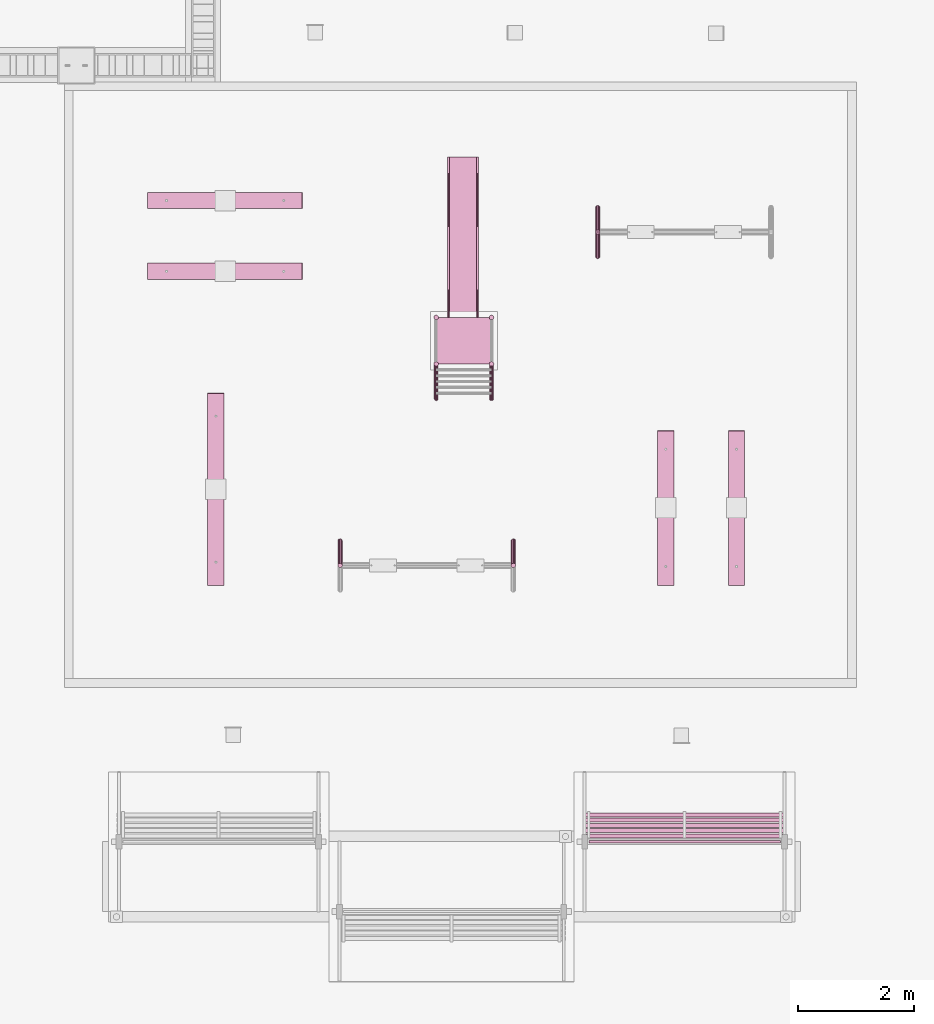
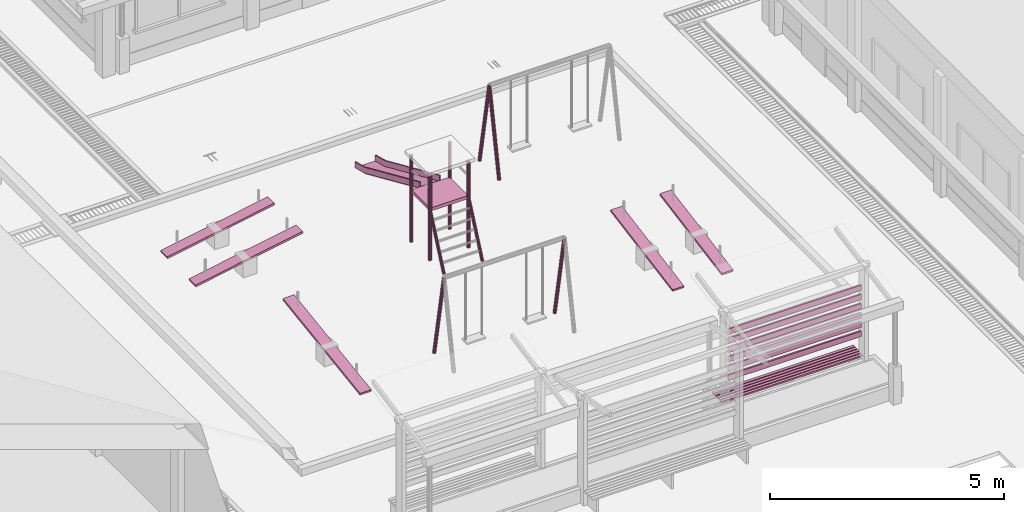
# One storey, part 138 of 151: 30 furnishings.
"""IFC2X3 building model written with IfcOpenShell, lengths in metres."""

from ifc_helpers import new_model, si_unit, origin, origin_with_axes, place, context, subcontext, project, spatial, faceted_brep, element, save


model = new_model("IFC2X3")

# Units and contexts
model_context = context("Model", 3, precision=1e-05, world=origin_with_axes())
body_context = subcontext(model_context, "Body", "Model", "MODEL_VIEW")
ifc_project = project(units=[si_unit("LENGTHUNIT", "METRE"), si_unit("AREAUNIT", "SQUARE_METRE"), si_unit("VOLUMEUNIT", "CUBIC_METRE"), si_unit("PLANEANGLEUNIT", "RADIAN")], contexts=[model_context])

# Site, building, storey
site_placement = place(None, origin_with_axes())
site = spatial("IfcSite", under=ifc_project, at=site_placement, Name="Predio Los Mangos - Morales, San Martín", CompositionType="ELEMENT")
building_placement = place(site_placement, origin())
building = spatial("IfcBuilding", under=site, at=building_placement, Name="Hogar de Refugio Temporal", CompositionType="ELEMENT")
storey_placement = place(building_placement, origin())
storey = spatial("IfcBuildingStorey", under=building, at=storey_placement, Name="NIVEL 1 (NPT +0.00)", CompositionType="ELEMENT", Elevation=0.0)

# Furnishings
furnishing_1_placement = place(storey_placement, origin())
element("IfcFurnishingElement", 1, at=furnishing_1_placement, inside=storey, Name="balancin_tabla", ObjectType="Mobiliario exterior / juegos", context=body_context, shape_type="Brep", body=[
    faceted_brep([(38.6172, 79.4125, 0.2754), (38.3372, 79.4125, 0.2754), (38.3372, 82.0625, 0.7554), (38.6172, 82.0625, 0.7554), (38.6172, 79.4035, 0.3246), (38.6172, 82.0535, 0.8046), (38.3372, 82.0535, 0.8046), (38.3372, 79.4035, 0.3246)], [[[0, 1, 2, 3]], [[4, 5, 6, 7]], [[0, 3, 5, 4]], [[3, 2, 6, 5]], [[2, 1, 7, 6]], [[1, 0, 4, 7]]]),
])
furnishing_2_placement = place(storey_placement, origin())
element("IfcFurnishingElement", 2, at=furnishing_2_placement, inside=storey, Name="balancin_tabla", ObjectType="Mobiliario exterior / juegos", context=body_context, shape_type="Brep", body=[
    faceted_brep([(39.8317, 79.4125, 0.2754), (39.5518, 79.4125, 0.2754), (39.5518, 82.0625, 0.7554), (39.8317, 82.0625, 0.7554), (39.8317, 79.4035, 0.3246), (39.8317, 82.0535, 0.8046), (39.5518, 82.0535, 0.8046), (39.5518, 79.4035, 0.3246)], [[[0, 1, 2, 3]], [[4, 5, 6, 7]], [[0, 3, 5, 4]], [[3, 2, 6, 5]], [[2, 1, 7, 6]], [[1, 0, 4, 7]]]),
])
furnishing_3_placement = place(storey_placement, origin())
element("IfcFurnishingElement", 3, at=furnishing_3_placement, inside=storey, Name="tobogan_escalera", ObjectType="Mobiliario exterior / juegos", context=body_context, shape_type="Brep", body=[
    faceted_brep([(34.535, 82.5721, 0.1445), (34.535, 83.1721, 1.4645), (34.5175, 83.1764, 1.4625), (34.5175, 82.5764, 0.1425), (34.5047, 83.1881, 1.4572), (34.5047, 82.5881, 0.1372), (34.5, 83.204, 1.45), (34.5, 82.604, 0.13), (34.5047, 83.2199, 1.4428), (34.5047, 82.6199, 0.1228), (34.5175, 83.2316, 1.4375), (34.5175, 82.6316, 0.1175), (34.535, 83.2359, 1.4355), (34.535, 82.6359, 0.1155), (34.5525, 83.2316, 1.4375), (34.5525, 82.6316, 0.1175), (34.5653, 83.2199, 1.4428), (34.5653, 82.6199, 0.1228), (34.57, 83.204, 1.45), (34.57, 82.604, 0.13), (34.5653, 83.1881, 1.4572), (34.5653, 82.5881, 0.1372), (34.5525, 83.1764, 1.4625), (34.5525, 82.5764, 0.1425)], [[[0, 1, 2, 3]], [[3, 2, 4, 5]], [[5, 4, 6, 7]], [[7, 6, 8, 9]], [[9, 8, 10, 11]], [[11, 10, 12, 13]], [[13, 12, 14, 15]], [[15, 14, 16, 17]], [[17, 16, 18, 19]], [[19, 18, 20, 21]], [[2, 1, 22, 20, 18, 16, 14, 12, 10, 8, 6, 4]], [[21, 20, 22, 23]], [[23, 22, 1, 0]], [[0, 3, 5, 7, 9, 11, 13, 15, 17, 19, 21, 23]]]),
])
furnishing_4_placement = place(storey_placement, origin())
element("IfcFurnishingElement", 4, at=furnishing_4_placement, inside=storey, Name="tobogan_poste", ObjectType="Mobiliario exterior / juegos", context=body_context, shape_type="Brep", body=[
    faceted_brep([(34.535, 83.164, 0.13), (34.535, 83.164, 2.4), (34.515, 83.1694, 2.4), (34.515, 83.1694, 0.13), (34.5004, 83.184, 2.4), (34.5004, 83.184, 0.13), (34.495, 83.204, 2.4), (34.495, 83.204, 0.13), (34.5004, 83.224, 2.4), (34.5004, 83.224, 0.13), (34.515, 83.2386, 2.4), (34.515, 83.2386, 0.13), (34.535, 83.244, 2.4), (34.535, 83.244, 0.13), (34.555, 83.2386, 2.4), (34.555, 83.2386, 0.13), (34.5696, 83.224, 2.4), (34.5696, 83.224, 0.13), (34.575, 83.204, 2.4), (34.575, 83.204, 0.13), (34.5696, 83.184, 2.4), (34.5696, 83.184, 0.13), (34.555, 83.1694, 2.4), (34.555, 83.1694, 0.13)], [[[0, 1, 2, 3]], [[3, 2, 4, 5]], [[5, 4, 6, 7]], [[7, 6, 8, 9]], [[9, 8, 10, 11]], [[11, 10, 12, 13]], [[13, 12, 14, 15]], [[15, 14, 16, 17]], [[17, 16, 18, 19]], [[19, 18, 20, 21]], [[2, 1, 22, 20, 18, 16, 14, 12, 10, 8, 6, 4]], [[21, 20, 22, 23]], [[23, 22, 1, 0]], [[0, 3, 5, 7, 9, 11, 13, 15, 17, 19, 21, 23]]]),
])
furnishing_5_placement = place(storey_placement, origin())
element("IfcFurnishingElement", 5, at=furnishing_5_placement, inside=storey, Name="tobogan_poste", ObjectType="Mobiliario exterior / juegos", context=body_context, shape_type="Brep", body=[
    faceted_brep([(34.535, 83.964, 0.13), (34.535, 83.964, 2.4), (34.515, 83.9694, 2.4), (34.515, 83.9694, 0.13), (34.5004, 83.984, 2.4), (34.5004, 83.984, 0.13), (34.495, 84.004, 2.4), (34.495, 84.004, 0.13), (34.5004, 84.024, 2.4), (34.5004, 84.024, 0.13), (34.515, 84.0386, 2.4), (34.515, 84.0386, 0.13), (34.535, 84.044, 2.4), (34.535, 84.044, 0.13), (34.555, 84.0386, 2.4), (34.555, 84.0386, 0.13), (34.5696, 84.024, 2.4), (34.5696, 84.024, 0.13), (34.575, 84.004, 2.4), (34.575, 84.004, 0.13), (34.5696, 83.984, 2.4), (34.5696, 83.984, 0.13), (34.555, 83.9694, 2.4), (34.555, 83.9694, 0.13)], [[[0, 1, 2, 3]], [[3, 2, 4, 5]], [[5, 4, 6, 7]], [[7, 6, 8, 9]], [[9, 8, 10, 11]], [[11, 10, 12, 13]], [[13, 12, 14, 15]], [[15, 14, 16, 17]], [[17, 16, 18, 19]], [[19, 18, 20, 21]], [[2, 1, 22, 20, 18, 16, 14, 12, 10, 8, 6, 4]], [[21, 20, 22, 23]], [[23, 22, 1, 0]], [[0, 3, 5, 7, 9, 11, 13, 15, 17, 19, 21, 23]]]),
])
furnishing_6_placement = place(storey_placement, origin())
element("IfcFurnishingElement", 6, at=furnishing_6_placement, inside=storey, Name="tobogan_escalera", ObjectType="Mobiliario exterior / juegos", context=body_context, shape_type="Brep", body=[
    faceted_brep([(35.485, 82.5721, 0.1445), (35.485, 83.1721, 1.4645), (35.4675, 83.1764, 1.4625), (35.4675, 82.5764, 0.1425), (35.4547, 83.1881, 1.4572), (35.4547, 82.5881, 0.1372), (35.45, 83.204, 1.45), (35.45, 82.604, 0.13), (35.4547, 83.2199, 1.4428), (35.4547, 82.6199, 0.1228), (35.4675, 83.2316, 1.4375), (35.4675, 82.6316, 0.1175), (35.485, 83.2359, 1.4355), (35.485, 82.6359, 0.1155), (35.5025, 83.2316, 1.4375), (35.5025, 82.6316, 0.1175), (35.5153, 83.2199, 1.4428), (35.5153, 82.6199, 0.1228), (35.52, 83.204, 1.45), (35.52, 82.604, 0.13), (35.5153, 83.1881, 1.4572), (35.5153, 82.5881, 0.1372), (35.5025, 83.1764, 1.4625), (35.5025, 82.5764, 0.1425)], [[[0, 1, 2, 3]], [[3, 2, 4, 5]], [[5, 4, 6, 7]], [[7, 6, 8, 9]], [[9, 8, 10, 11]], [[11, 10, 12, 13]], [[13, 12, 14, 15]], [[15, 14, 16, 17]], [[17, 16, 18, 19]], [[19, 18, 20, 21]], [[2, 1, 22, 20, 18, 16, 14, 12, 10, 8, 6, 4]], [[21, 20, 22, 23]], [[23, 22, 1, 0]], [[0, 3, 5, 7, 9, 11, 13, 15, 17, 19, 21, 23]]]),
])
furnishing_7_placement = place(storey_placement, origin())
element("IfcFurnishingElement", 7, at=furnishing_7_placement, inside=storey, Name="tobogan_poste", ObjectType="Mobiliario exterior / juegos", context=body_context, shape_type="Brep", body=[
    faceted_brep([(35.485, 83.164, 0.13), (35.485, 83.164, 2.4), (35.465, 83.1694, 2.4), (35.465, 83.1694, 0.13), (35.4504, 83.184, 2.4), (35.4504, 83.184, 0.13), (35.445, 83.204, 2.4), (35.445, 83.204, 0.13), (35.4504, 83.224, 2.4), (35.4504, 83.224, 0.13), (35.465, 83.2386, 2.4), (35.465, 83.2386, 0.13), (35.485, 83.244, 2.4), (35.485, 83.244, 0.13), (35.505, 83.2386, 2.4), (35.505, 83.2386, 0.13), (35.5196, 83.224, 2.4), (35.5196, 83.224, 0.13), (35.525, 83.204, 2.4), (35.525, 83.204, 0.13), (35.5196, 83.184, 2.4), (35.5196, 83.184, 0.13), (35.505, 83.1694, 2.4), (35.505, 83.1694, 0.13)], [[[0, 1, 2, 3]], [[3, 2, 4, 5]], [[5, 4, 6, 7]], [[7, 6, 8, 9]], [[9, 8, 10, 11]], [[11, 10, 12, 13]], [[13, 12, 14, 15]], [[15, 14, 16, 17]], [[17, 16, 18, 19]], [[19, 18, 20, 21]], [[2, 1, 22, 20, 18, 16, 14, 12, 10, 8, 6, 4]], [[21, 20, 22, 23]], [[23, 22, 1, 0]], [[0, 3, 5, 7, 9, 11, 13, 15, 17, 19, 21, 23]]]),
])
furnishing_8_placement = place(storey_placement, origin())
element("IfcFurnishingElement", 8, at=furnishing_8_placement, inside=storey, Name="tobogan_poste", ObjectType="Mobiliario exterior / juegos", context=body_context, shape_type="Brep", body=[
    faceted_brep([(35.485, 83.964, 0.13), (35.485, 83.964, 2.4), (35.465, 83.9694, 2.4), (35.465, 83.9694, 0.13), (35.4504, 83.984, 2.4), (35.4504, 83.984, 0.13), (35.445, 84.004, 2.4), (35.445, 84.004, 0.13), (35.4504, 84.024, 2.4), (35.4504, 84.024, 0.13), (35.465, 84.0386, 2.4), (35.465, 84.0386, 0.13), (35.485, 84.044, 2.4), (35.485, 84.044, 0.13), (35.505, 84.0386, 2.4), (35.505, 84.0386, 0.13), (35.5196, 84.024, 2.4), (35.5196, 84.024, 0.13), (35.525, 84.004, 2.4), (35.525, 84.004, 0.13), (35.5196, 83.984, 2.4), (35.5196, 83.984, 0.13), (35.505, 83.9694, 2.4), (35.505, 83.9694, 0.13)], [[[0, 1, 2, 3]], [[3, 2, 4, 5]], [[5, 4, 6, 7]], [[7, 6, 8, 9]], [[9, 8, 10, 11]], [[11, 10, 12, 13]], [[13, 12, 14, 15]], [[15, 14, 16, 17]], [[17, 16, 18, 19]], [[19, 18, 20, 21]], [[2, 1, 22, 20, 18, 16, 14, 12, 10, 8, 6, 4]], [[21, 20, 22, 23]], [[23, 22, 1, 0]], [[0, 3, 5, 7, 9, 11, 13, 15, 17, 19, 21, 23]]]),
])
furnishing_9_placement = place(storey_placement, origin())
element("IfcFurnishingElement", 9, at=furnishing_9_placement, inside=storey, Name="tobogan_plataforma", ObjectType="Mobiliario exterior / juegos", context=body_context, shape_type="Brep", body=[
    faceted_brep([(34.535, 83.204, 1.4), (34.535, 84.004, 1.4), (35.485, 84.004, 1.4), (35.485, 83.204, 1.4), (34.535, 83.204, 1.48), (35.485, 83.204, 1.48), (35.485, 84.004, 1.48), (34.535, 84.004, 1.48)], [[[0, 1, 2, 3]], [[4, 5, 6, 7]], [[0, 3, 5, 4]], [[3, 2, 6, 5]], [[2, 1, 7, 6]], [[1, 0, 4, 7]]]),
])
furnishing_10_placement = place(storey_placement, origin())
element("IfcFurnishingElement", 10, at=furnishing_10_placement, inside=storey, Name="resbaladera", ObjectType="Mobiliario exterior / juegos", context=body_context, shape_type="Brep", body=[
    faceted_brep([(34.76, 84.004, 1.46), (35.26, 84.004, 1.46), (35.26, 86.356, 0.42), (34.76, 86.356, 0.42), (35.26, 86.756, 0.32), (34.76, 86.756, 0.32), (34.76, 83.9919, 1.4326), (34.76, 86.3463, 0.3916), (35.26, 86.3463, 0.3916), (35.26, 83.9919, 1.4326), (34.76, 86.7487, 0.2909), (35.26, 86.7487, 0.2909)], [[[0, 1, 2, 3]], [[3, 2, 4, 5]], [[6, 7, 8, 9]], [[7, 10, 11, 8]], [[0, 3, 7, 6]], [[1, 0, 6, 9]], [[2, 1, 9, 8]], [[3, 5, 10, 7]], [[4, 2, 8, 11]], [[5, 4, 11, 10]]]),
])
furnishing_11_placement = place(storey_placement, origin())
element("IfcFurnishingElement", 11, at=furnishing_11_placement, inside=storey, Name="resbaladera_borde", ObjectType="Mobiliario exterior / juegos", context=body_context, shape_type="Brep", body=[
    faceted_brep([(34.76, 84.004, 1.46), (34.76, 86.356, 0.42), (34.76, 86.356, 0.57), (34.76, 84.004, 1.61), (34.76, 86.756, 0.32), (34.76, 86.756, 0.47), (34.73, 84.004, 1.46), (34.73, 84.004, 1.61), (34.73, 86.356, 0.57), (34.73, 86.356, 0.42), (34.73, 86.756, 0.47), (34.73, 86.756, 0.32)], [[[0, 1, 2, 3]], [[1, 4, 5, 2]], [[6, 7, 8, 9]], [[9, 8, 10, 11]], [[0, 3, 7, 6]], [[1, 0, 6, 9]], [[3, 2, 8, 7]], [[4, 1, 9, 11]], [[5, 4, 11, 10]], [[2, 5, 10, 8]]]),
])
furnishing_12_placement = place(storey_placement, origin())
element("IfcFurnishingElement", 12, at=furnishing_12_placement, inside=storey, Name="resbaladera_borde", ObjectType="Mobiliario exterior / juegos", context=body_context, shape_type="Brep", body=[
    faceted_brep([(35.26, 84.004, 1.46), (35.26, 86.356, 0.42), (35.26, 86.356, 0.57), (35.26, 84.004, 1.61), (35.26, 86.756, 0.32), (35.26, 86.756, 0.47), (35.23, 84.004, 1.46), (35.23, 84.004, 1.61), (35.23, 86.356, 0.57), (35.23, 86.356, 0.42), (35.23, 86.756, 0.47), (35.23, 86.756, 0.32)], [[[0, 1, 2, 3]], [[1, 4, 5, 2]], [[6, 7, 8, 9]], [[9, 8, 10, 11]], [[0, 3, 7, 6]], [[1, 0, 6, 9]], [[3, 2, 8, 7]], [[4, 1, 9, 11]], [[5, 4, 11, 10]], [[2, 5, 10, 8]]]),
])
furnishing_13_placement = place(storey_placement, origin())
element("IfcFurnishingElement", 13, at=furnishing_13_placement, inside=storey, Name="balancin_tabla", ObjectType="Mobiliario exterior / juegos", context=body_context, shape_type="Brep", body=[
    faceted_brep([(30.891, 79.4076, 0.2753), (30.611, 79.4076, 0.2753), (30.611, 82.7066, 0.7553), (30.891, 82.7066, 0.7553), (30.891, 79.4004, 0.3247), (30.891, 82.6994, 0.8047), (30.611, 82.6994, 0.8047), (30.611, 79.4004, 0.3247)], [[[0, 1, 2, 3]], [[4, 5, 6, 7]], [[0, 3, 5, 4]], [[3, 2, 6, 5]], [[2, 1, 7, 6]], [[1, 0, 4, 7]]]),
])
furnishing_14_placement = place(storey_placement, origin())
element("IfcFurnishingElement", 14, at=furnishing_14_placement, inside=storey, Name="columpio_pata", ObjectType="Mobiliario exterior / juegos", context=body_context, shape_type="Brep", body=[
    faceted_brep([(32.885, 80.2033, 0.1374), (32.885, 79.7833, 2.3574), (32.905, 79.778, 2.3564), (32.905, 80.198, 0.1364), (32.9196, 79.7637, 2.3537), (32.9196, 80.1837, 0.1337), (32.925, 79.744, 2.35), (32.925, 80.164, 0.13), (32.9196, 79.7243, 2.3463), (32.9196, 80.1443, 0.1263), (32.905, 79.71, 2.3436), (32.905, 80.13, 0.1236), (32.885, 79.7047, 2.3426), (32.885, 80.1247, 0.1226), (32.865, 79.71, 2.3436), (32.865, 80.13, 0.1236), (32.8504, 79.7243, 2.3463), (32.8504, 80.1443, 0.1263), (32.845, 79.744, 2.35), (32.845, 80.164, 0.13), (32.8504, 79.7637, 2.3537), (32.8504, 80.1837, 0.1337), (32.865, 79.778, 2.3564), (32.865, 80.198, 0.1364)], [[[0, 1, 2, 3]], [[3, 2, 4, 5]], [[5, 4, 6, 7]], [[7, 6, 8, 9]], [[9, 8, 10, 11]], [[11, 10, 12, 13]], [[13, 12, 14, 15]], [[15, 14, 16, 17]], [[17, 16, 18, 19]], [[19, 18, 20, 21]], [[2, 1, 22, 20, 18, 16, 14, 12, 10, 8, 6, 4]], [[21, 20, 22, 23]], [[23, 22, 1, 0]], [[0, 3, 5, 7, 9, 11, 13, 15, 17, 19, 21, 23]]]),
])
furnishing_15_placement = place(storey_placement, origin())
element("IfcFurnishingElement", 15, at=furnishing_15_placement, inside=storey, Name="columpio_pata", ObjectType="Mobiliario exterior / juegos", context=body_context, shape_type="Brep", body=[
    faceted_brep([(35.86, 80.2033, 0.1374), (35.86, 79.7833, 2.3574), (35.88, 79.778, 2.3564), (35.88, 80.198, 0.1364), (35.8946, 79.7637, 2.3537), (35.8946, 80.1837, 0.1337), (35.9, 79.744, 2.35), (35.9, 80.164, 0.13), (35.8946, 79.7243, 2.3463), (35.8946, 80.1443, 0.1263), (35.88, 79.71, 2.3436), (35.88, 80.13, 0.1236), (35.86, 79.7047, 2.3426), (35.86, 80.1247, 0.1226), (35.84, 79.71, 2.3436), (35.84, 80.13, 0.1236), (35.8254, 79.7243, 2.3463), (35.8254, 80.1443, 0.1263), (35.82, 79.744, 2.35), (35.82, 80.164, 0.13), (35.8254, 79.7637, 2.3537), (35.8254, 80.1837, 0.1337), (35.84, 79.778, 2.3564), (35.84, 80.198, 0.1364)], [[[0, 1, 2, 3]], [[3, 2, 4, 5]], [[5, 4, 6, 7]], [[7, 6, 8, 9]], [[9, 8, 10, 11]], [[11, 10, 12, 13]], [[13, 12, 14, 15]], [[15, 14, 16, 17]], [[17, 16, 18, 19]], [[19, 18, 20, 21]], [[2, 1, 22, 20, 18, 16, 14, 12, 10, 8, 6, 4]], [[21, 20, 22, 23]], [[23, 22, 1, 0]], [[0, 3, 5, 7, 9, 11, 13, 15, 17, 19, 21, 23]]]),
])
furnishing_16_placement = place(storey_placement, origin())
element("IfcFurnishingElement", 16, at=furnishing_16_placement, inside=storey, Name="columpio_pata", ObjectType="Mobiliario exterior / juegos", context=body_context, shape_type="Brep", body=[
    faceted_brep([(37.31, 85.0097, 0.1374), (37.31, 85.4297, 2.3574), (37.29, 85.435, 2.3564), (37.29, 85.015, 0.1364), (37.2754, 85.4493, 2.3537), (37.2754, 85.0294, 0.1337), (37.27, 85.469, 2.35), (37.27, 85.049, 0.13), (37.2754, 85.4887, 2.3463), (37.2754, 85.0687, 0.1263), (37.29, 85.503, 2.3436), (37.29, 85.083, 0.1236), (37.31, 85.5083, 2.3426), (37.31, 85.0883, 0.1226), (37.33, 85.503, 2.3436), (37.33, 85.083, 0.1236), (37.3446, 85.4887, 2.3463), (37.3446, 85.0687, 0.1263), (37.35, 85.469, 2.35), (37.35, 85.049, 0.13), (37.3446, 85.4493, 2.3537), (37.3446, 85.0294, 0.1337), (37.33, 85.435, 2.3564), (37.33, 85.015, 0.1364)], [[[0, 1, 2, 3]], [[3, 2, 4, 5]], [[5, 4, 6, 7]], [[7, 6, 8, 9]], [[9, 8, 10, 11]], [[11, 10, 12, 13]], [[13, 12, 14, 15]], [[15, 14, 16, 17]], [[17, 16, 18, 19]], [[19, 18, 20, 21]], [[2, 1, 22, 20, 18, 16, 14, 12, 10, 8, 6, 4]], [[21, 20, 22, 23]], [[23, 22, 1, 0]], [[0, 3, 5, 7, 9, 11, 13, 15, 17, 19, 21, 23]]]),
])
furnishing_17_placement = place(storey_placement, origin())
element("IfcFurnishingElement", 17, at=furnishing_17_placement, inside=storey, Name="columpio_pata", ObjectType="Mobiliario exterior / juegos", context=body_context, shape_type="Brep", body=[
    faceted_brep([(37.31, 85.9283, 0.1374), (37.31, 85.5083, 2.3574), (37.33, 85.503, 2.3564), (37.33, 85.923, 0.1364), (37.3446, 85.4887, 2.3537), (37.3446, 85.9087, 0.1337), (37.35, 85.469, 2.35), (37.35, 85.889, 0.13), (37.3446, 85.4493, 2.3463), (37.3446, 85.8693, 0.1263), (37.33, 85.435, 2.3436), (37.33, 85.855, 0.1236), (37.31, 85.4297, 2.3426), (37.31, 85.8497, 0.1226), (37.29, 85.435, 2.3436), (37.29, 85.855, 0.1236), (37.2754, 85.4493, 2.3463), (37.2754, 85.8693, 0.1263), (37.27, 85.469, 2.35), (37.27, 85.889, 0.13), (37.2754, 85.4887, 2.3537), (37.2754, 85.9087, 0.1337), (37.29, 85.503, 2.3564), (37.29, 85.923, 0.1364)], [[[0, 1, 2, 3]], [[3, 2, 4, 5]], [[5, 4, 6, 7]], [[7, 6, 8, 9]], [[9, 8, 10, 11]], [[11, 10, 12, 13]], [[13, 12, 14, 15]], [[15, 14, 16, 17]], [[17, 16, 18, 19]], [[19, 18, 20, 21]], [[2, 1, 22, 20, 18, 16, 14, 12, 10, 8, 6, 4]], [[21, 20, 22, 23]], [[23, 22, 1, 0]], [[0, 3, 5, 7, 9, 11, 13, 15, 17, 19, 21, 23]]]),
])
furnishing_18_placement = place(storey_placement, origin())
element("IfcFurnishingElement", 18, at=furnishing_18_placement, inside=storey, Name="balancin_tabla", ObjectType="Mobiliario exterior / juegos", context=body_context, shape_type="Brep", body=[
    faceted_brep([(29.5895, 84.6553, 0.2754), (29.5895, 84.9352, 0.2754), (32.2395, 84.9352, 0.7554), (32.2395, 84.6553, 0.7554), (29.5805, 84.6553, 0.3246), (32.2305, 84.6553, 0.8046), (32.2305, 84.9352, 0.8046), (29.5805, 84.9352, 0.3246)], [[[0, 1, 2, 3]], [[4, 5, 6, 7]], [[0, 3, 5, 4]], [[3, 2, 6, 5]], [[2, 1, 7, 6]], [[1, 0, 4, 7]]]),
])
furnishing_19_placement = place(storey_placement, origin())
element("IfcFurnishingElement", 19, at=furnishing_19_placement, inside=storey, Name="balancin_tabla", ObjectType="Mobiliario exterior / juegos", context=body_context, shape_type="Brep", body=[
    faceted_brep([(29.5895, 85.8698, 0.2754), (29.5895, 86.1497, 0.2754), (32.2395, 86.1497, 0.7554), (32.2395, 85.8698, 0.7554), (29.5805, 85.8698, 0.3246), (32.2305, 85.8698, 0.8046), (32.2305, 86.1497, 0.8046), (29.5805, 86.1497, 0.3246)], [[[0, 1, 2, 3]], [[4, 5, 6, 7]], [[0, 3, 5, 4]], [[3, 2, 6, 5]], [[2, 1, 7, 6]], [[1, 0, 4, 7]]]),
])
furnishing_20_placement = place(storey_placement, origin())
element("IfcFurnishingElement", 20, at=furnishing_20_placement, inside=storey, Name="oc01_celosia", ObjectType="Mobiliario exterior / juegos", context=body_context, shape_type="Brep", body=[
    faceted_brep([(40.445, 75.02, 1.05), (40.445, 74.98, 1.05), (37.155, 74.98, 1.05), (37.155, 75.02, 1.05), (40.445, 75.02, 1.19), (37.155, 75.02, 1.19), (37.155, 74.98, 1.19), (40.445, 74.98, 1.19)], [[[0, 1, 2, 3]], [[4, 5, 6, 7]], [[0, 3, 5, 4]], [[3, 2, 6, 5]], [[2, 1, 7, 6]], [[1, 0, 4, 7]]]),
])
furnishing_21_placement = place(storey_placement, origin())
element("IfcFurnishingElement", 21, at=furnishing_21_placement, inside=storey, Name="oc01_celosia", ObjectType="Mobiliario exterior / juegos", context=body_context, shape_type="Brep", body=[
    faceted_brep([(40.445, 75.02, 1.29), (40.445, 74.98, 1.29), (37.155, 74.98, 1.29), (37.155, 75.02, 1.29), (40.445, 75.02, 1.43), (37.155, 75.02, 1.43), (37.155, 74.98, 1.43), (40.445, 74.98, 1.43)], [[[0, 1, 2, 3]], [[4, 5, 6, 7]], [[0, 3, 5, 4]], [[3, 2, 6, 5]], [[2, 1, 7, 6]], [[1, 0, 4, 7]]]),
])
furnishing_22_placement = place(storey_placement, origin())
element("IfcFurnishingElement", 22, at=furnishing_22_placement, inside=storey, Name="oc01_celosia", ObjectType="Mobiliario exterior / juegos", context=body_context, shape_type="Brep", body=[
    faceted_brep([(40.445, 75.02, 1.53), (40.445, 74.98, 1.53), (37.155, 74.98, 1.53), (37.155, 75.02, 1.53), (40.445, 75.02, 1.67), (37.155, 75.02, 1.67), (37.155, 74.98, 1.67), (40.445, 74.98, 1.67)], [[[0, 1, 2, 3]], [[4, 5, 6, 7]], [[0, 3, 5, 4]], [[3, 2, 6, 5]], [[2, 1, 7, 6]], [[1, 0, 4, 7]]]),
])
furnishing_23_placement = place(storey_placement, origin())
element("IfcFurnishingElement", 23, at=furnishing_23_placement, inside=storey, Name="oc01_celosia", ObjectType="Mobiliario exterior / juegos", context=body_context, shape_type="Brep", body=[
    faceted_brep([(40.445, 75.02, 1.77), (40.445, 74.98, 1.77), (37.155, 74.98, 1.77), (37.155, 75.02, 1.77), (40.445, 75.02, 1.91), (37.155, 75.02, 1.91), (37.155, 74.98, 1.91), (40.445, 74.98, 1.91)], [[[0, 1, 2, 3]], [[4, 5, 6, 7]], [[0, 3, 5, 4]], [[3, 2, 6, 5]], [[2, 1, 7, 6]], [[1, 0, 4, 7]]]),
])
furnishing_24_placement = place(storey_placement, origin())
element("IfcFurnishingElement", 24, at=furnishing_24_placement, inside=storey, Name="oc01_celosia", ObjectType="Mobiliario exterior / juegos", context=body_context, shape_type="Brep", body=[
    faceted_brep([(40.445, 75.02, 2.01), (40.445, 74.98, 2.01), (37.155, 74.98, 2.01), (37.155, 75.02, 2.01), (40.445, 75.02, 2.15), (37.155, 75.02, 2.15), (37.155, 74.98, 2.15), (40.445, 74.98, 2.15)], [[[0, 1, 2, 3]], [[4, 5, 6, 7]], [[0, 3, 5, 4]], [[3, 2, 6, 5]], [[2, 1, 7, 6]], [[1, 0, 4, 7]]]),
])
furnishing_25_placement = place(storey_placement, origin())
element("IfcFurnishingElement", 25, at=furnishing_25_placement, inside=storey, Name="oc01_celosia", ObjectType="Mobiliario exterior / juegos", context=body_context, shape_type="Brep", body=[
    faceted_brep([(40.445, 75.02, 2.25), (40.445, 74.98, 2.25), (37.155, 74.98, 2.25), (37.155, 75.02, 2.25), (40.445, 75.02, 2.39), (37.155, 75.02, 2.39), (37.155, 74.98, 2.39), (40.445, 74.98, 2.39)], [[[0, 1, 2, 3]], [[4, 5, 6, 7]], [[0, 3, 5, 4]], [[3, 2, 6, 5]], [[2, 1, 7, 6]], [[1, 0, 4, 7]]]),
])
furnishing_26_placement = place(storey_placement, origin())
element("IfcFurnishingElement", 26, at=furnishing_26_placement, inside=storey, Name="oc01_asiento", ObjectType="Mobiliario exterior / juegos", context=body_context, shape_type="Brep", body=[
    faceted_brep([(40.545, 75.135, 0.44), (40.545, 75.065, 0.44), (37.055, 75.065, 0.44), (37.055, 75.135, 0.44), (40.545, 75.135, 0.48), (37.055, 75.135, 0.48), (37.055, 75.065, 0.48), (40.545, 75.065, 0.48)], [[[0, 1, 2, 3]], [[4, 5, 6, 7]], [[0, 3, 5, 4]], [[3, 2, 6, 5]], [[2, 1, 7, 6]], [[1, 0, 4, 7]]]),
])
furnishing_27_placement = place(storey_placement, origin())
element("IfcFurnishingElement", 27, at=furnishing_27_placement, inside=storey, Name="oc01_asiento", ObjectType="Mobiliario exterior / juegos", context=body_context, shape_type="Brep", body=[
    faceted_brep([(40.545, 75.225, 0.44), (40.545, 75.155, 0.44), (37.055, 75.155, 0.44), (37.055, 75.225, 0.44), (40.545, 75.225, 0.48), (37.055, 75.225, 0.48), (37.055, 75.155, 0.48), (40.545, 75.155, 0.48)], [[[0, 1, 2, 3]], [[4, 5, 6, 7]], [[0, 3, 5, 4]], [[3, 2, 6, 5]], [[2, 1, 7, 6]], [[1, 0, 4, 7]]]),
])
furnishing_28_placement = place(storey_placement, origin())
element("IfcFurnishingElement", 28, at=furnishing_28_placement, inside=storey, Name="oc01_asiento", ObjectType="Mobiliario exterior / juegos", context=body_context, shape_type="Brep", body=[
    faceted_brep([(40.545, 75.315, 0.44), (40.545, 75.245, 0.44), (37.055, 75.245, 0.44), (37.055, 75.315, 0.44), (40.545, 75.315, 0.48), (37.055, 75.315, 0.48), (37.055, 75.245, 0.48), (40.545, 75.245, 0.48)], [[[0, 1, 2, 3]], [[4, 5, 6, 7]], [[0, 3, 5, 4]], [[3, 2, 6, 5]], [[2, 1, 7, 6]], [[1, 0, 4, 7]]]),
])
furnishing_29_placement = place(storey_placement, origin())
element("IfcFurnishingElement", 29, at=furnishing_29_placement, inside=storey, Name="oc01_asiento", ObjectType="Mobiliario exterior / juegos", context=body_context, shape_type="Brep", body=[
    faceted_brep([(40.545, 75.405, 0.44), (40.545, 75.335, 0.44), (37.055, 75.335, 0.44), (37.055, 75.405, 0.44), (40.545, 75.405, 0.48), (37.055, 75.405, 0.48), (37.055, 75.335, 0.48), (40.545, 75.335, 0.48)], [[[0, 1, 2, 3]], [[4, 5, 6, 7]], [[0, 3, 5, 4]], [[3, 2, 6, 5]], [[2, 1, 7, 6]], [[1, 0, 4, 7]]]),
])
furnishing_30_placement = place(storey_placement, origin())
element("IfcFurnishingElement", 30, at=furnishing_30_placement, inside=storey, Name="oc01_asiento", ObjectType="Mobiliario exterior / juegos", context=body_context, shape_type="Brep", body=[
    faceted_brep([(40.545, 75.495, 0.44), (40.545, 75.425, 0.44), (37.055, 75.425, 0.44), (37.055, 75.495, 0.44), (40.545, 75.495, 0.48), (37.055, 75.495, 0.48), (37.055, 75.425, 0.48), (40.545, 75.425, 0.48)], [[[0, 1, 2, 3]], [[4, 5, 6, 7]], [[0, 3, 5, 4]], [[3, 2, 6, 5]], [[2, 1, 7, 6]], [[1, 0, 4, 7]]]),
])

save(model, "model.ifc")
